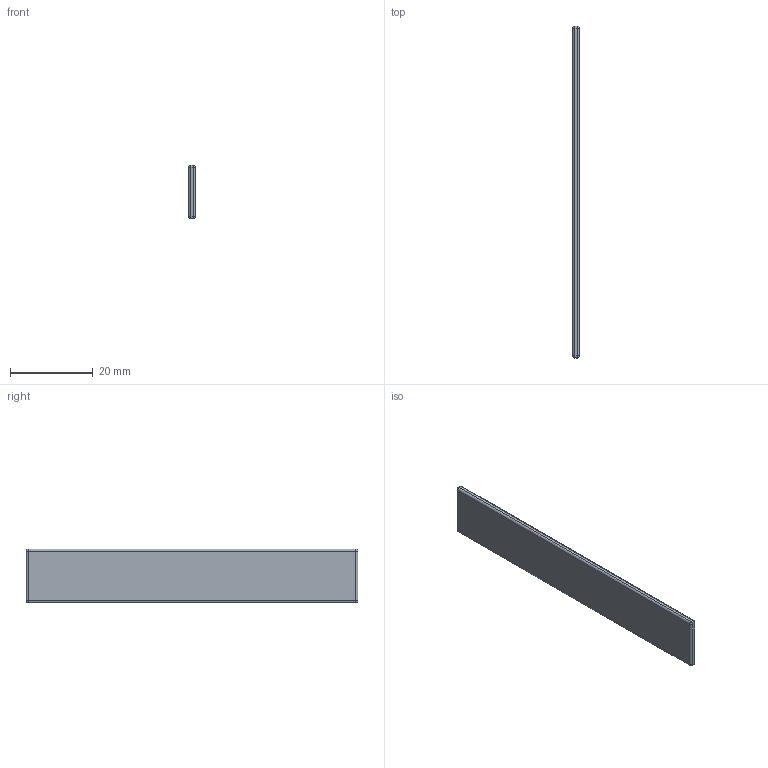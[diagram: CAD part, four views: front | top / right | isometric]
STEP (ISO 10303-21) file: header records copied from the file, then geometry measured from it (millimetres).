
FILE_DESCRIPTION(('Open CASCADE Model'),'2;1');
FILE_NAME('Open CASCADE Shape Model','2026-11-19T06:39:21',('Author'),( 'Open CASCADE'),'Open CASCADE STEP processor 8.0','Open CASCADE 8.0' ,'Unknown');
FILE_SCHEMA(('AUTOMOTIVE_DESIGN { 1 0 10303 214 1 1 1 1 }'));
Length unit declared in the file: millimetre
Products named in the file (1): Open CASCADE STEP translator 8.0 14
Bounding box: 1.6 x 80 x 13 mm (x, y, z)
Volume: 1643.9 mm3; surface area: 2296.1 mm2
Topology: 1 solids, 1 shells, 26 faces, 56 edges, 24 vertices
Faces by surface type: cylinder 12, sphere 8, plane 6
Entity records: 1226 total; most frequent: CARTESIAN_POINT 227, DIRECTION 190, ORIENTED_EDGE 96, PCURVE 96, DEFINITIONAL_REPRESENTATION 96, LINE 88, VECTOR 88, AXIS2_PLACEMENT_3D 51
